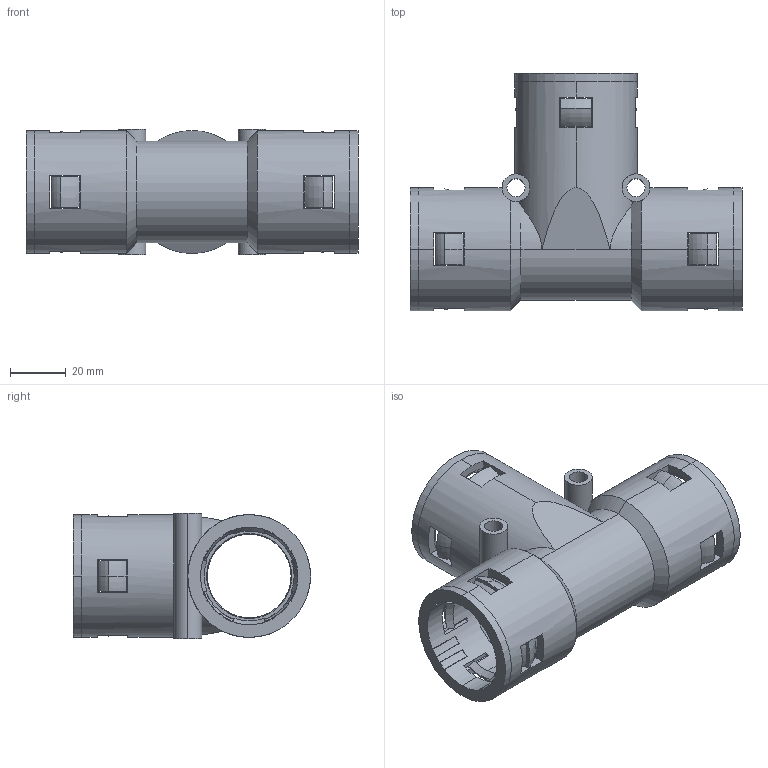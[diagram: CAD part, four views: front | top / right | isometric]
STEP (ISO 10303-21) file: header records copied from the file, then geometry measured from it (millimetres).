
FILE_DESCRIPTION (( 'STEP AP203' ), '1' );
FILE_NAME ('WQT-PA AD34.5-2X34.5.STEP', '2016-03-24T08:14:34', ( '' ), ( '' ), 'SwSTEP 2.0', 'SolidWorks 2010', '' );
FILE_SCHEMA (( 'CONFIG_CONTROL_DESIGN' ));
Length unit declared in the file: millimetre
Products named in the file (4): WQT-PA AD34.5-2X34.5; WQT-PA AD34.5-2X34.5-01; GFD-AD34.5; NSK-AD34.5
Assembly tree (7 placements, depth 2):
  WQT-PA AD34.5-2X34.5
    GFD-AD34.5  x3
    NSK-AD34.5  x3
    WQT-PA AD34.5-2X34.5-01
Bounding box: 119 x 85 x 45 mm (x, y, z)
Volume: 85852.9 mm3; surface area: 71247.3 mm2
Topology: 7 solids, 7 shells, 596 faces, 1596 edges, 998 vertices
Faces by surface type: plane 270, cone 147, cylinder 104, torus 75
Entity records: 10113 total; most frequent: CARTESIAN_POINT 2288, DIRECTION 1617, ORIENTED_EDGE 1528, EDGE_CURVE 764, AXIS2_PLACEMENT_3D 639, VERTEX_POINT 478, CIRCLE 349, LINE 339
